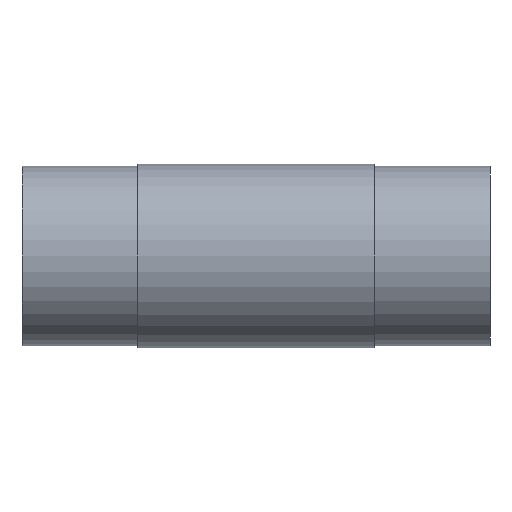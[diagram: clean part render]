
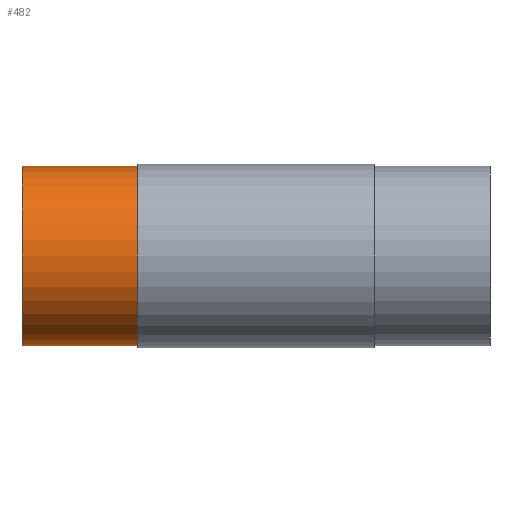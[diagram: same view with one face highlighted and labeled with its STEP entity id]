
A CAD part, left-side view. The second image highlights one B-rep face of the part: STEP entity #482.
In plain terms, the highlighted cylindrical face has radius 90 mm (diameter 180 mm), a full revolution.
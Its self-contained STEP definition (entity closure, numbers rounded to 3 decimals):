
#450=CARTESIAN_POINT('',(-90.,119.,0.));
#451=VERTEX_POINT('',#450);
#452=CARTESIAN_POINT('',(0.,119.,0.));
#453=DIRECTION('',(0.,-1.,0.));
#454=DIRECTION('',(-1.,0.,0.));
#455=AXIS2_PLACEMENT_3D('',#452,#453,#454);
#456=CIRCLE('',#455,90.);
#457=EDGE_CURVE('',#451,#451,#456,.T.);
#458=ORIENTED_EDGE('',*,*,#457,.F.);
#459=CARTESIAN_POINT('',(-90.,235.,0.));
#460=VERTEX_POINT('',#459);
#461=CARTESIAN_POINT('',(-90.,177.,0.));
#462=DIRECTION('',(0.,-1.,0.));
#463=VECTOR('',#462,90.);
#464=LINE('',#461,#463);
#465=EDGE_CURVE('',#460,#451,#464,.T.);
#466=ORIENTED_EDGE('',*,*,#465,.F.);
#467=CARTESIAN_POINT('',(0.,235.,0.));
#468=DIRECTION('',(0.,-1.,0.));
#469=DIRECTION('',(-1.,0.,0.));
#470=AXIS2_PLACEMENT_3D('',#467,#468,#469);
#471=CIRCLE('',#470,90.);
#472=EDGE_CURVE('',#460,#460,#471,.T.);
#473=ORIENTED_EDGE('',*,*,#472,.T.);
#474=ORIENTED_EDGE('',*,*,#465,.T.);
#475=EDGE_LOOP('',(#458,#466,#473,#474));
#476=FACE_OUTER_BOUND('',#475,.T.);
#477=CARTESIAN_POINT('',(0.,177.,0.));
#478=DIRECTION('',(0.,-1.,0.));
#479=DIRECTION('',(-1.,0.,0.));
#480=AXIS2_PLACEMENT_3D('',#477,#478,#479);
#481=CYLINDRICAL_SURFACE('',#480,90.);
#482=ADVANCED_FACE('',(#476),#481,.T.);
